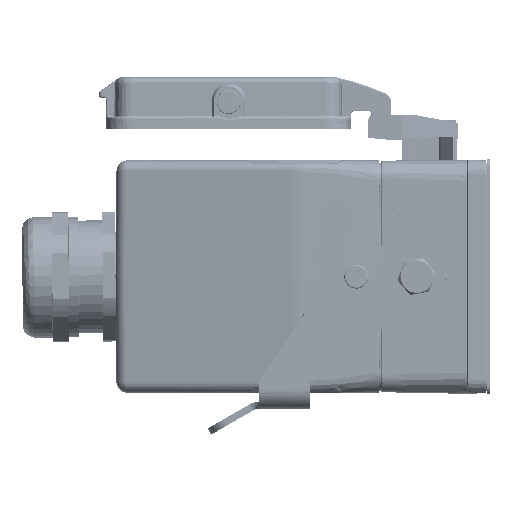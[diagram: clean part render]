
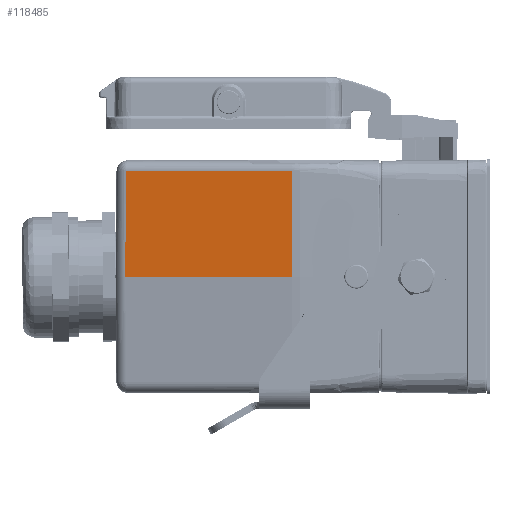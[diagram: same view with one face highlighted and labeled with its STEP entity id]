
A CAD part, left-side view. The second image highlights one B-rep face of the part: STEP entity #118485.
In plain terms, the highlighted planar face has unit normal (-0.99, 0.139, 0.009).
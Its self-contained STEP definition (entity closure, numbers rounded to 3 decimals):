
#2053 = DIRECTION ( 'NONE',  ( -0.009, 0.001, -1. ) ) ;
#5435 = CARTESIAN_POINT ( 'NONE',  ( -38.201, 43.231, 37.285 ) ) ;
#32470 = CARTESIAN_POINT ( 'NONE',  ( -46.805, -15.653, 0. ) ) ;
#55553 = VERTEX_POINT ( 'NONE', #232530 ) ;
#55691 = DIRECTION ( 'NONE',  ( -0.139, -0.99, 0. ) ) ;
#56529 = ORIENTED_EDGE ( 'NONE', *, *, #253561, .T. ) ;
#56550 = DIRECTION ( 'NONE',  ( 0.009, 0., 1. ) ) ;
#59647 = DIRECTION ( 'NONE',  ( 0.008, -0.009, 1. ) ) ;
#65265 = CARTESIAN_POINT ( 'NONE',  ( -38., 47., 0. ) ) ;
#84659 = VECTOR ( 'NONE', #59647, 1000. ) ;
#86440 = CARTESIAN_POINT ( 'NONE',  ( -38.484, 43.557, -0.026 ) ) ;
#90191 = EDGE_LOOP ( 'NONE', ( #158359, #56529, #102122, #114295 ) ) ;
#96794 = PLANE ( 'NONE',  #151932 ) ;
#102122 = ORIENTED_EDGE ( 'NONE', *, *, #240770, .F. ) ;
#102844 = LINE ( 'NONE', #65265, #193160 ) ;
#114295 = ORIENTED_EDGE ( 'NONE', *, *, #227439, .F. ) ;
#118485 = ADVANCED_FACE ( 'NONE', ( #181311 ), #96794, .T. ) ;
#144116 = CARTESIAN_POINT ( 'NONE',  ( -46.805, -15.653, -0.001 ) ) ;
#144753 = VECTOR ( 'NONE', #2053, 1000. ) ;
#151932 = AXIS2_PLACEMENT_3D ( 'NONE', #158473, #240394, #56550 ) ;
#154412 = VERTEX_POINT ( 'NONE', #32470 ) ;
#155270 = EDGE_CURVE ( 'NONE', #172923, #164733, #187048, .T. ) ;
#158359 = ORIENTED_EDGE ( 'NONE', *, *, #155270, .F. ) ;
#158473 = CARTESIAN_POINT ( 'NONE',  ( -38., 47., 0. ) ) ;
#164733 = VERTEX_POINT ( 'NONE', #5435 ) ;
#172331 = VECTOR ( 'NONE', #55691, 1000. ) ;
#172923 = VERTEX_POINT ( 'NONE', #206792 ) ;
#181311 = FACE_OUTER_BOUND ( 'NONE', #90191, .T. ) ;
#187048 = LINE ( 'NONE', #86440, #84659 ) ;
#193160 = VECTOR ( 'NONE', #250408, 1000. ) ;
#206792 = CARTESIAN_POINT ( 'NONE',  ( -38.484, 43.557, 0. ) ) ;
#208616 = LINE ( 'NONE', #144116, #144753 ) ;
#220766 = CARTESIAN_POINT ( 'NONE',  ( -34.698, 68.154, 37.285 ) ) ;
#222082 = LINE ( 'NONE', #220766, #172331 ) ;
#227439 = EDGE_CURVE ( 'NONE', #164733, #55553, #222082, .T. ) ;
#232530 = CARTESIAN_POINT ( 'NONE',  ( -46.48, -15.676, 37.285 ) ) ;
#240394 = DIRECTION ( 'NONE',  ( -0.99, 0.139, 0.009 ) ) ;
#240770 = EDGE_CURVE ( 'NONE', #55553, #154412, #208616, .T. ) ;
#250408 = DIRECTION ( 'NONE',  ( -0.139, -0.99, 0. ) ) ;
#253561 = EDGE_CURVE ( 'NONE', #172923, #154412, #102844, .T. ) ;
